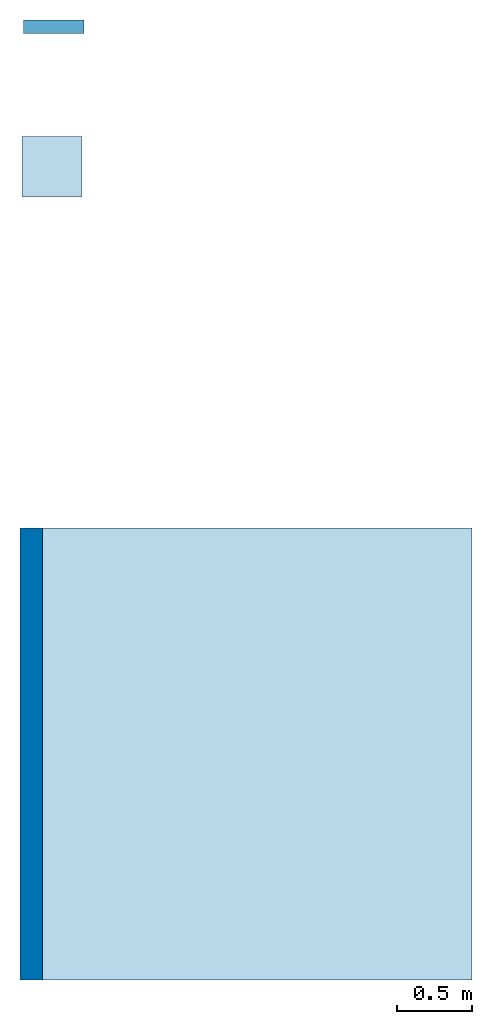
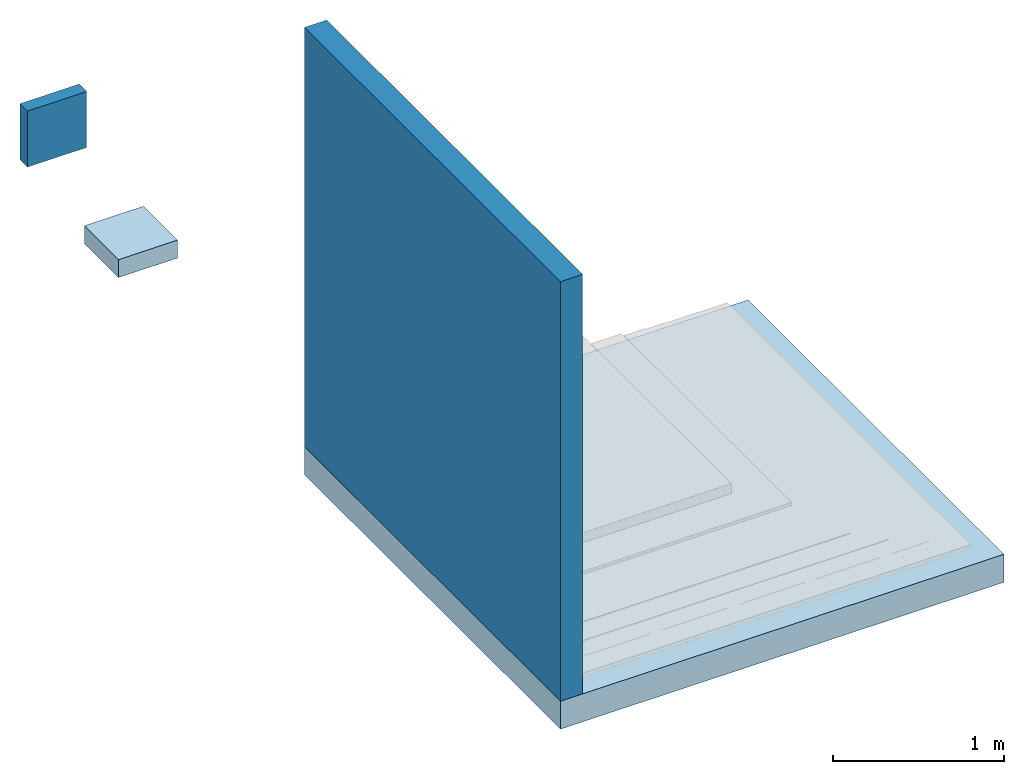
# One storey, part 1 of 2: 2 slabs, 2 walls.
"""IFC2X3 building model written with IfcOpenShell, lengths in metres."""

import ifcopenshell
import ifcopenshell.guid

model = None  # the IFC model being written
_history = None  # IfcOwnerHistory: only IFC2X3 demands one
_inside = {}  # id of a spatial element -> (the spatial element, [elements in it])
_under = {}  # id of a project, library or spatial element -> (it, [spatial elements below it])
_declared = {}  # id of a project -> (the project, [libraries it declares])
_typed = {}  # id of a type object -> (the type object, [elements of that type])
_made_of = {}  # id of a material, layer set ... -> (it, [elements and type objects made of it])


def new_model(schema):
    """Start an empty IFC model of exactly this schema.

    Asked for "IFC4X3", IfcOpenShell would pick the latest addendum, in which some entities
    have other attributes; the version numbers below select the first issue.
    IFC2X3 requires an IfcOwnerHistory on every rooted entity: one is made here for all.
    """
    global model, _history
    if schema == "IFC4X3":
        model = ifcopenshell.file(schema_version=(4, 3, 0, 0))
    else:
        model = ifcopenshell.file(schema=schema)
    _inside.clear()
    _under.clear()
    _declared.clear()
    _typed.clear()
    _made_of.clear()
    _history = None
    if model.schema == "IFC2X3":
        org = make("IfcOrganization", Name="unknown")
        user = make(
            "IfcPersonAndOrganization",
            ThePerson=make("IfcPerson", FamilyName="unknown"),
            TheOrganization=org,
        )
        app = make(
            "IfcApplication",
            ApplicationDeveloper=org,
            Version="unknown",
            ApplicationFullName="unknown",
            ApplicationIdentifier="unknown",
        )
        _history = make(
            "IfcOwnerHistory",
            OwningUser=user,
            OwningApplication=app,
            ChangeAction="ADDED",
            CreationDate=0,
        )
    return model


def make(cls, **values):
    """One entity of the class cls with the attributes given. An attribute that is None is left unset."""
    return model.create_entity(
        cls, **{name: value for name, value in values.items() if value is not None}
    )


def entity(cls, *values):
    """Any entity or typed value of the class cls, its attributes in the order of the schema. None: left unset."""
    e = model.create_entity(cls)
    for i, value in enumerate(values):
        if value is not None:
            e[i] = value
    return e


def rooted(cls, **values):
    """An entity with a GlobalId (a new one), such as an element, a storey or a relation."""
    return make(cls, GlobalId=ifcopenshell.guid.new(), OwnerHistory=_history, **values)


def si_unit(unit_type, name, prefix=None):
    """IfcSIUnit, for example si_unit("LENGTHUNIT", "METRE", prefix="MILLI")."""
    return make("IfcSIUnit", UnitType=unit_type, Prefix=prefix, Name=name)


def converted_unit(unit_type, name, factor, base, dimensions=None, offset=None):
    """IfcConversionBasedUnit, such as the inch: factor (a typed value) times the base unit."""
    return make(
        "IfcConversionBasedUnit"
        if offset is None
        else "IfcConversionBasedUnitWithOffset",
        ConversionOffset=offset,
        Dimensions=None
        if dimensions is None
        else entity("IfcDimensionalExponents", *dimensions),
        UnitType=unit_type,
        Name=name,
        ConversionFactor=make(
            "IfcMeasureWithUnit", ValueComponent=factor, UnitComponent=base
        ),
    )


def derived_unit(unit_type, elements):
    """IfcDerivedUnit: a product of units, each with its exponent."""
    return make(
        "IfcDerivedUnit",
        Elements=[
            make("IfcDerivedUnitElement", Unit=unit, Exponent=power)
            for unit, power in elements
        ],
        UnitType=unit_type,
    )


def assignment(units):
    """IfcUnitAssignment: the units of a project."""
    return None if units is None else make("IfcUnitAssignment", Units=units)


def point(xyz):
    """IfcCartesianPoint."""
    return None if xyz is None else make("IfcCartesianPoint", Coordinates=xyz)


def direction(xyz):
    """IfcDirection."""
    return None if xyz is None else make("IfcDirection", DirectionRatios=xyz)


def frame(location, z_axis=None, x_axis=None):
    """IfcAxis2Placement3D, a coordinate frame: its origin and axes. An axis left out is left unset."""
    return make(
        "IfcAxis2Placement3D",
        Location=point(location),
        Axis=direction(z_axis),
        RefDirection=direction(x_axis),
    )


def frame_2d(location, x_axis=None):
    """IfcAxis2Placement2D, a coordinate frame in the plane: its origin and x axis."""
    return make(
        "IfcAxis2Placement2D", Location=point(location), RefDirection=direction(x_axis)
    )


def origin():
    """The frame at (0, 0, 0) with its axes left unset."""
    return frame((0.0, 0.0, 0.0))


def origin_2d_with_axis():
    """The frame at (0, 0) in the plane with the x axis (1, 0) written out."""
    return frame_2d((0.0, 0.0), x_axis=(1.0, 0.0))


def place(relative_to, where):
    """IfcLocalPlacement: puts the frame where relative to a parent placement (None: the world)."""
    return make(
        "IfcLocalPlacement", PlacementRelTo=relative_to, RelativePlacement=where
    )


def context(
    kind, dimensions, precision=None, world=None, true_north=None, identifier=None
):
    """IfcGeometricRepresentationContext, for example the 3D "Model" context."""
    return make(
        "IfcGeometricRepresentationContext",
        ContextIdentifier=identifier,
        ContextType=kind,
        CoordinateSpaceDimension=dimensions,
        Precision=precision,
        WorldCoordinateSystem=world,
        TrueNorth=true_north,
    )


def subcontext(parent, identifier, kind, view, scale=None):
    """IfcGeometricRepresentationSubContext, for example "Body" below "Model"."""
    return make(
        "IfcGeometricRepresentationSubContext",
        ContextIdentifier=identifier,
        ContextType=kind,
        ParentContext=parent,
        TargetScale=scale,
        TargetView=view,
    )


def project(units=None, contexts=None):
    """IfcProject with its units and contexts."""
    return rooted(
        "IfcProject",
        Name="project",
        RepresentationContexts=contexts,
        UnitsInContext=assignment(units),
    )


def spatial(cls, under=None, at=None, **own):
    """A site, building, storey or space (cls), placed at a placement, below another one or the project."""
    s = rooted(cls, ObjectPlacement=at, **own)
    if under is not None:
        _under.setdefault(under.id(), (under, []))[1].append(s)
    return s


def profile(cls, at=None, kind="AREA", **sizes):
    """A parametric profile (cls). Its sizes go by their IFC names, for example OverallWidth=200.0."""
    return make(cls, ProfileType=kind, Position=at, **sizes)


def rectangle(**sizes):
    """IfcRectangleProfileDef."""
    return profile("IfcRectangleProfileDef", **sizes)


def extrude(swept, where, along, depth):
    """IfcExtrudedAreaSolid: the profile swept, set in the frame where, extruded along a direction by depth."""
    return make(
        "IfcExtrudedAreaSolid",
        SweptArea=swept,
        Position=where,
        ExtrudedDirection=direction(along),
        Depth=depth,
    )


def shape(context_of_items, identifier, shape_type, items):
    """IfcShapeRepresentation: the items that make up one representation, for example the "Body"."""
    return make(
        "IfcShapeRepresentation",
        ContextOfItems=context_of_items,
        RepresentationIdentifier=identifier,
        RepresentationType=shape_type,
        Items=items,
    )


def material(Name=None, Category=None):
    """IfcMaterial."""
    return make("IfcMaterial", Name=Name, Category=Category)


def layer(
    of_material, thickness, ventilated=None, Name=None, Category=None, Priority=None
):
    """IfcMaterialLayer: one layer of a wall or slab, of a material (None: an air gap)."""
    return make(
        "IfcMaterialLayer",
        Material=of_material,
        LayerThickness=thickness,
        IsVentilated=ventilated,
        Name=Name,
        Category=Category,
        Priority=Priority,
    )


def layer_set(layers, Name=None):
    """IfcMaterialLayerSet."""
    return make("IfcMaterialLayerSet", MaterialLayers=layers, LayerSetName=Name)


def layer_usage(for_layer_set, set_direction, sense, offset, extent=None):
    """IfcMaterialLayerSetUsage: how a layer set lies in its element."""
    return make(
        "IfcMaterialLayerSetUsage",
        ForLayerSet=for_layer_set,
        LayerSetDirection=set_direction,
        DirectionSense=sense,
        OffsetFromReferenceLine=offset,
        ReferenceExtent=extent,
    )


def made_of(thing, what):
    """Note that an element or type object is made of a material, layer set ...; save() writes the relation."""
    if what is not None:
        _made_of.setdefault(what.id(), (what, []))[1].append(thing)
    return thing


def type_object(cls, material=None, **own):
    """A type object (cls), such as IfcWallType, which elements share."""
    return made_of(rooted(cls, **own), material)


def element(
    cls,
    number,
    at=None,
    inside=None,
    cuts=None,
    type_object=None,
    material=None,
    context=None,
    identifier="Body",
    shape_type=None,
    held_by="IfcProductDefinitionShape",
    body=None,
    shapes=None,
    **own,
):
    """One element of the class cls, such as IfcWall. Its Tag is "e" and its number.

    at: its placement. inside: the storey or other place that contains it. cuts: it is an
    opening in that element (IfcRelVoidsElement). A single representation is given by context,
    identifier, shape_type and body (its items); several are given by shapes. held_by: the class
    of the entity that holds the representations. save() writes the other relations.
    """
    e = rooted(cls, Tag="e%d" % number, ObjectPlacement=at, **own)
    if body is not None:
        shapes = [shape(context, identifier, shape_type, body)]
    if shapes is not None:
        e.Representation = make(held_by, Representations=shapes)
    if inside is not None:
        _inside.setdefault(inside.id(), (inside, []))[1].append(e)
    if cuts is not None:
        rooted(
            "IfcRelVoidsElement", RelatingBuildingElement=cuts, RelatedOpeningElement=e
        )
    if type_object is not None:
        _typed.setdefault(type_object.id(), (type_object, []))[1].append(e)
    return made_of(e, material)


def aggregate(whole, parts):
    """IfcRelAggregates: a whole, such as a stair, and the parts it consists of."""
    return rooted("IfcRelAggregates", RelatingObject=whole, RelatedObjects=parts)


def save(model, path):
    """Write the relations noted so far, then the file.

    IfcRelAggregates (storeys below a building ...), IfcRelContainedInSpatialStructure (elements
    in a storey), IfcRelDefinesByType, IfcRelAssociatesMaterial and IfcRelDeclares: one each for
    every whole, place, type object, material and project.
    """
    for whole, parts in _under.values():
        aggregate(whole, parts)
    for where, things in _inside.values():
        rooted(
            "IfcRelContainedInSpatialStructure",
            RelatedElements=things,
            RelatingStructure=where,
        )
    for kind, things in _typed.values():
        rooted("IfcRelDefinesByType", RelatedObjects=things, RelatingType=kind)
    for what, things in _made_of.values():
        rooted("IfcRelAssociatesMaterial", RelatedObjects=things, RelatingMaterial=what)
    for by, libraries in _declared.values():
        rooted("IfcRelDeclares", RelatingContext=by, RelatedDefinitions=libraries)
    model.write(path)


model = new_model("IFC2X3")

# Units and contexts
model_context = context("Model", 3, precision=1e-05, world=origin(), true_north=direction((6.123031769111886e-17, 1.0)))
body_context = subcontext(model_context, "Body", "Model", "MODEL_VIEW")
ifc_project = project(units=[si_unit("LENGTHUNIT", "METRE"), si_unit("AREAUNIT", "SQUARE_METRE"), si_unit("VOLUMEUNIT", "CUBIC_METRE"), converted_unit("PLANEANGLEUNIT", "DEGREE", entity("IfcRatioMeasure", 0.017453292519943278), si_unit("PLANEANGLEUNIT", "RADIAN"), dimensions=[0, 0, 0, 0, 0, 0, 0]), si_unit("MASSUNIT", "GRAM", prefix="KILO"), derived_unit("MASSDENSITYUNIT", [(si_unit("MASSUNIT", "GRAM", prefix="KILO"), 1), (si_unit("LENGTHUNIT", "METRE"), -3)]), derived_unit("IONCONCENTRATIONUNIT", [(si_unit("MASSUNIT", "GRAM", prefix="KILO"), 1), (si_unit("LENGTHUNIT", "METRE"), -3)]), derived_unit("MOMENTOFINERTIAUNIT", [(si_unit("LENGTHUNIT", "METRE"), 4)]), si_unit("TIMEUNIT", "SECOND"), si_unit("FREQUENCYUNIT", "HERTZ"), si_unit("THERMODYNAMICTEMPERATUREUNIT", "DEGREE_CELSIUS"), derived_unit("THERMALTRANSMITTANCEUNIT", [(si_unit("MASSUNIT", "GRAM", prefix="KILO"), 1), (si_unit("THERMODYNAMICTEMPERATUREUNIT", "KELVIN"), -1), (si_unit("TIMEUNIT", "SECOND"), -3)]), derived_unit("THERMALCONDUCTANCEUNIT", [(si_unit("MASSUNIT", "GRAM", prefix="KILO"), 1), (si_unit("THERMODYNAMICTEMPERATUREUNIT", "KELVIN"), -1), (si_unit("TIMEUNIT", "SECOND"), -3), (si_unit("LENGTHUNIT", "METRE"), 1)]), derived_unit("VOLUMETRICFLOWRATEUNIT", [(si_unit("LENGTHUNIT", "METRE"), 3), (si_unit("TIMEUNIT", "SECOND"), -1)]), derived_unit("MASSFLOWRATEUNIT", [(si_unit("MASSUNIT", "GRAM", prefix="KILO"), 1), (si_unit("TIMEUNIT", "SECOND"), -1)]), derived_unit("ROTATIONALFREQUENCYUNIT", [(si_unit("TIMEUNIT", "SECOND"), -1)]), si_unit("ELECTRICCURRENTUNIT", "AMPERE"), si_unit("ELECTRICVOLTAGEUNIT", "VOLT"), si_unit("POWERUNIT", "WATT"), si_unit("FORCEUNIT", "NEWTON", prefix="KILO"), si_unit("ILLUMINANCEUNIT", "LUX"), si_unit("LUMINOUSFLUXUNIT", "LUMEN"), si_unit("LUMINOUSINTENSITYUNIT", "CANDELA"), derived_unit("USERDEFINED", [(si_unit("MASSUNIT", "GRAM", prefix="KILO"), -1), (si_unit("LENGTHUNIT", "METRE"), -2), (si_unit("TIMEUNIT", "SECOND"), 3), (si_unit("LUMINOUSFLUXUNIT", "LUMEN"), 1)]), derived_unit("USERDEFINED", [(si_unit("MASSUNIT", "GRAM", prefix="KILO"), 1), (si_unit("TIMEUNIT", "SECOND"), -3), (si_unit("LENGTHUNIT", "METRE"), 3), (si_unit("ELECTRICCURRENTUNIT", "AMPERE"), -2)]), derived_unit("SOUNDPOWERUNIT", [(si_unit("MASSUNIT", "GRAM", prefix="KILO"), 1), (si_unit("TIMEUNIT", "SECOND"), -3), (si_unit("LENGTHUNIT", "METRE"), 2)]), derived_unit("SOUNDPRESSUREUNIT", [(si_unit("MASSUNIT", "GRAM", prefix="KILO"), 1), (si_unit("LENGTHUNIT", "METRE"), -1), (si_unit("TIMEUNIT", "SECOND"), -2)]), derived_unit("LINEARVELOCITYUNIT", [(si_unit("LENGTHUNIT", "METRE"), 1), (si_unit("TIMEUNIT", "SECOND"), -1)]), si_unit("PRESSUREUNIT", "PASCAL"), derived_unit("USERDEFINED", [(si_unit("MASSUNIT", "GRAM", prefix="KILO"), 1), (si_unit("LENGTHUNIT", "METRE"), -2), (si_unit("TIMEUNIT", "SECOND"), -2)]), derived_unit("LINEARFORCEUNIT", [(si_unit("MASSUNIT", "GRAM", prefix="KILO"), 1), (si_unit("TIMEUNIT", "SECOND"), -2)]), derived_unit("PLANARFORCEUNIT", [(si_unit("MASSUNIT", "GRAM", prefix="KILO"), 1), (si_unit("LENGTHUNIT", "METRE"), -1), (si_unit("TIMEUNIT", "SECOND"), -2)]), derived_unit("SPECIFICHEATCAPACITYUNIT", [(si_unit("THERMODYNAMICTEMPERATUREUNIT", "KELVIN"), -1), (si_unit("LENGTHUNIT", "METRE"), 2), (si_unit("TIMEUNIT", "SECOND"), -2)]), derived_unit("HEATINGVALUEUNIT", [(si_unit("LENGTHUNIT", "METRE"), 2), (si_unit("TIMEUNIT", "SECOND"), -2)]), derived_unit("VAPORPERMEABILITYUNIT", [(si_unit("LENGTHUNIT", "METRE"), -1), (si_unit("TIMEUNIT", "SECOND"), 1)]), derived_unit("DYNAMICVISCOSITYUNIT", [(si_unit("MASSUNIT", "GRAM", prefix="KILO"), 1), (si_unit("TIMEUNIT", "SECOND"), -1), (si_unit("LENGTHUNIT", "METRE"), -1)]), derived_unit("THERMALEXPANSIONCOEFFICIENTUNIT", [(si_unit("THERMODYNAMICTEMPERATUREUNIT", "KELVIN"), -1)]), derived_unit("MODULUSOFELASTICITYUNIT", [(si_unit("MASSUNIT", "GRAM", prefix="KILO"), 1), (si_unit("LENGTHUNIT", "METRE"), -1), (si_unit("TIMEUNIT", "SECOND"), -2)]), derived_unit("ISOTHERMALMOISTURECAPACITYUNIT", [(si_unit("LENGTHUNIT", "METRE"), 3), (si_unit("MASSUNIT", "GRAM", prefix="KILO"), -1)]), derived_unit("MOISTUREDIFFUSIVITYUNIT", [(si_unit("TIMEUNIT", "SECOND"), -1), (si_unit("LENGTHUNIT", "METRE"), 2)])], contexts=[model_context])

# Site, building, storey
site_placement = place(None, origin())
site = spatial("IfcSite", under=ifc_project, at=site_placement, Name="Default", CompositionType="ELEMENT")
building_placement = place(site_placement, origin())
building = spatial("IfcBuilding", under=site, at=building_placement, CompositionType="ELEMENT")
storey_placement = place(building_placement, frame((0.0, 0.0, -0.0025237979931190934)))
storey = spatial("IfcBuildingStorey", under=building, at=storey_placement, Name="ARQ Térreo", CompositionType="ELEMENT", Elevation=-0.0025237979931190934)

# Slabs
ifc_material_1 = material(Name="#concreto")
ifc_layer_1 = layer(ifc_material_1, 0.2)
ifc_layer_set_1 = layer_set([ifc_layer_1], Name="Piso:Piso:LAJE CONCRETO")
ifc_layer_usage_1 = layer_usage(ifc_layer_set_1, "AXIS3", "POSITIVE", 0.0)
slab_type_1 = type_object("IfcSlabType", Name="Piso:Piso:LAJE CONCRETO", PredefinedType="FLOOR", material=ifc_layer_set_1)
slab_1_placement = place(storey_placement, origin())
element("IfcSlab", 1, at=slab_1_placement, inside=storey, type_object=slab_type_1, material=ifc_layer_usage_1, Name="Piso:Piso:LAJE CONCRETO", ObjectType="Piso:Piso:LAJE CONCRETO", PredefinedType="FLOOR", context=body_context, shape_type="SweptSolid", body=[
    extrude(rectangle(XDim=3.0000000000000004, YDim=3.0000000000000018, at=origin_2d_with_axis()), frame((0.9980295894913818, -1.354129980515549, 0.0), z_axis=(0.0, 0.0, -1.0), x_axis=(0.0, 1.0, 0.0)), (0.0, 0.0, 1.0), 0.2),
])
ifc_material_2 = material(Name="#proteção mecânica")
ifc_layer_2 = layer(ifc_material_2, 0.07)
ifc_material_3 = material(Name="#camada amortecedora")
ifc_layer_3 = layer(ifc_material_3, 0.02)
ifc_material_4 = material(Name="# Torodin 4mm - TIPO III - Classe A")
ifc_layer_4 = layer(ifc_material_4, 0.003999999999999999)
ifc_material_5 = material(Name="# Torodin 3mm - TIPO III - Classe A")
ifc_layer_5 = layer(ifc_material_5, 0.003)
ifc_material_6 = material(Name="#Primer Adeflex")
ifc_layer_6 = layer(ifc_material_6, 0.0009999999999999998)
ifc_material_7 = material(Name="#argamassa")
ifc_layer_7 = layer(ifc_material_7, 0.03)
ifc_layer_set_2 = layer_set([ifc_layer_2, ifc_layer_3, ifc_layer_4, ifc_layer_5, ifc_layer_6, ifc_layer_7], Name="Piso:IMPH_T3PP+T4PP")
ifc_layer_usage_2 = layer_usage(ifc_layer_set_2, "AXIS3", "POSITIVE", 0.0)
slab_type_2 = type_object("IfcSlabType", Name="Piso:IMPH_T3PP+T4PP", PredefinedType="FLOOR", material=ifc_layer_set_2)
slab_2_placement = place(storey_placement, origin())
element("IfcSlab", 2, at=slab_2_placement, inside=storey, type_object=slab_type_2, material=ifc_layer_usage_2, Name="Piso:IMPH_T3PP+T4PP", ObjectType="Piso:IMPH_T3PP+T4PP", PredefinedType="FLOOR", context=body_context, shape_type="SweptSolid", body=[
    extrude(rectangle(XDim=0.4, YDim=0.4, at=origin_2d_with_axis()), frame((-0.2899954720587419, 2.5458700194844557, 0.0), z_axis=(0.0, 0.0, -1.0), x_axis=(0.0, 1.0, 0.0)), (0.0, 0.0, 1.0), 0.12799999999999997),
])

# Walls
ifc_layer_8 = layer(ifc_material_1, 0.14999999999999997)
ifc_layer_set_3 = layer_set([ifc_layer_8], Name="Parede básica:Parede básica:Parede Concreto")
ifc_layer_usage_3 = layer_usage(ifc_layer_set_3, "AXIS2", "NEGATIVE", 0.07499999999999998)
wall_type_1 = type_object("IfcWallType", Name="Parede básica:Parede básica:Parede Concreto", PredefinedType="STANDARD", material=ifc_layer_set_3)
wall_1_placement = place(storey_placement, frame((-0.4269704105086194, 0.14587001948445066, 0.0), z_axis=(0.0, 0.0, 1.0), x_axis=(0.0, -1.0, 0.0)))
element("IfcWallStandardCase", 3, at=wall_1_placement, inside=storey, type_object=wall_type_1, material=ifc_layer_usage_3, Name="Parede básica:Parede Concreto", ObjectType="Parede básica:Parede Concreto", context=body_context, shape_type="SweptSolid", body=[
    extrude(rectangle(XDim=2.9999999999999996, YDim=0.15000000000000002, at=frame_2d((1.4999999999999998, 0.0), x_axis=(-1.0, 0.0))), origin(), (0.0, 0.0, 1.0), 2.9999999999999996),
])
ifc_layer_9 = layer(ifc_material_2, 0.07)
ifc_layer_10 = layer(ifc_material_4, 0.003999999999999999)
ifc_layer_11 = layer(ifc_material_5, 0.003)
ifc_layer_12 = layer(ifc_material_6, 0.0009999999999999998)
ifc_layer_13 = layer(ifc_material_7, 0.01)
ifc_layer_set_4 = layer_set([ifc_layer_9, ifc_layer_10, ifc_layer_11, ifc_layer_12, ifc_layer_13], Name="Parede básica:IMPV_T3PP+T4PP")
ifc_layer_usage_4 = layer_usage(ifc_layer_set_4, "AXIS2", "NEGATIVE", 0.044)
wall_type_2 = type_object("IfcWallType", Name="Parede básica:IMPV_T3PP+T4PP", PredefinedType="STANDARD", material=ifc_layer_set_4)
wall_2_placement = place(storey_placement, frame((-0.07845796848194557, 3.475742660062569, 0.0), z_axis=(0.0, 0.0, 1.0), x_axis=(-1.0, 0.0, 0.0)))
element("IfcWallStandardCase", 4, at=wall_2_placement, inside=storey, type_object=wall_type_2, material=ifc_layer_usage_4, Name="Parede básica:IMPV_T4PP", ObjectType="Parede básica:IMPV_T4PP", context=body_context, shape_type="SweptSolid", body=[
    extrude(rectangle(XDim=0.4, YDim=0.0879999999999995, at=frame_2d((0.2, 1.214306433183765e-16), x_axis=(-1.0, 0.0))), origin(), (0.0, 0.0, 1.0), 0.4),
])

save(model, "model.ifc")
